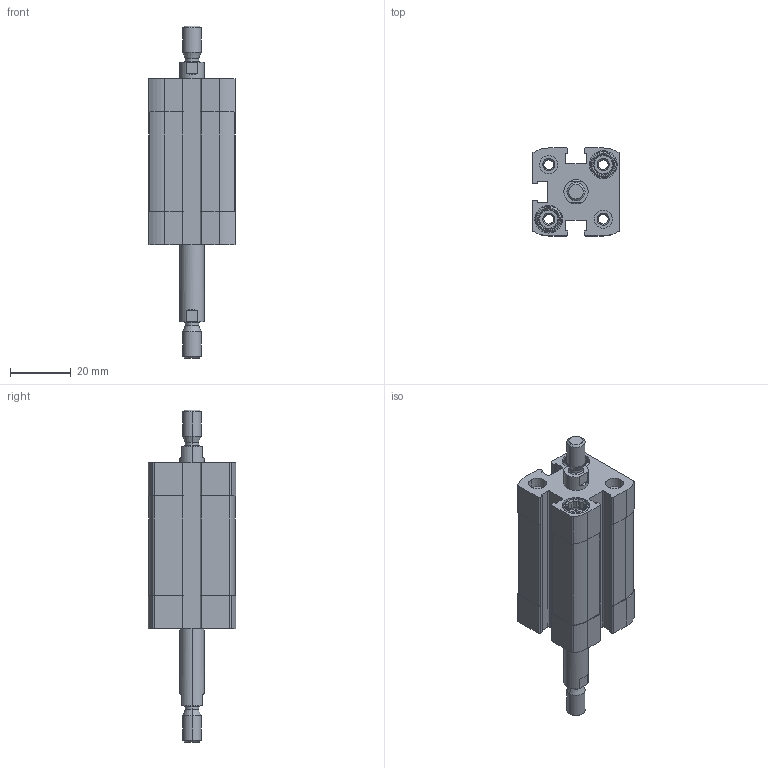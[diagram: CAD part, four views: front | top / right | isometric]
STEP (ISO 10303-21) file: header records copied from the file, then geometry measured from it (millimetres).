
FILE_DESCRIPTION (( 'STEP AP203' ), '1' );
FILE_NAME ('CCN16-20-P.STEP', '2020-06-22T18:37:16', ( '' ), ( '' ), 'SwSTEP 2.0', 'SolidWorks 2019', '' );
FILE_SCHEMA (( 'CONFIG_CONTROL_DESIGN' ));
Length unit declared in the file: millimetre
Products named in the file (1): CCN16-20-P
Bounding box: 29 x 29 x 109.7 mm (x, y, z)
Volume: 35182.9 mm3; surface area: 18752.3 mm2
Topology: 2 solids, 2 shells, 384 faces, 978 edges, 634 vertices
Faces by surface type: plane 192, cylinder 140, cone 44, torus 8
Entity records: 11803 total; most frequent: CARTESIAN_POINT 2297, DIRECTION 1990, ORIENTED_EDGE 1956, EDGE_CURVE 978, AXIS2_PLACEMENT_3D 727, VERTEX_POINT 634, VECTOR 536, LINE 536
